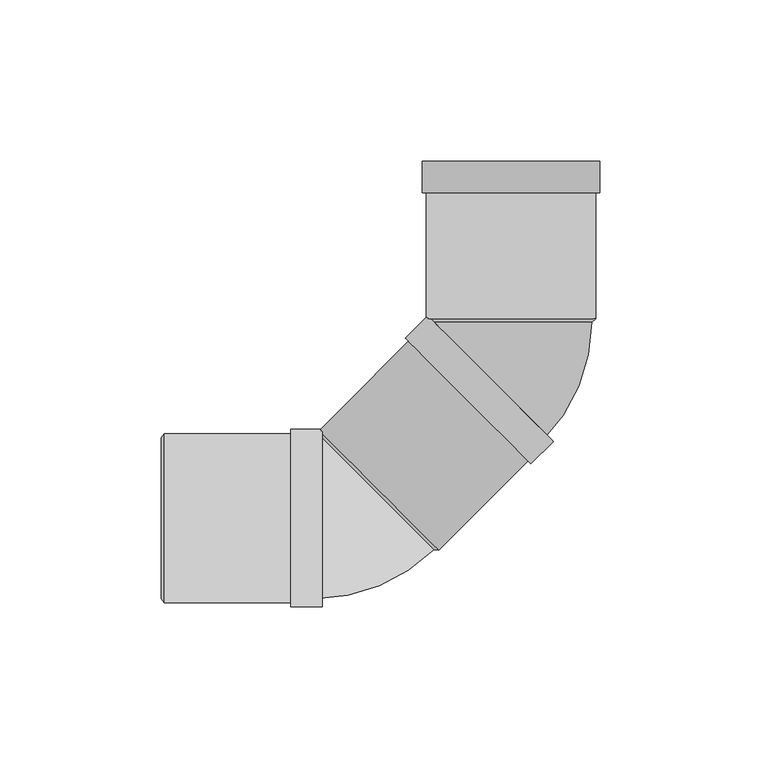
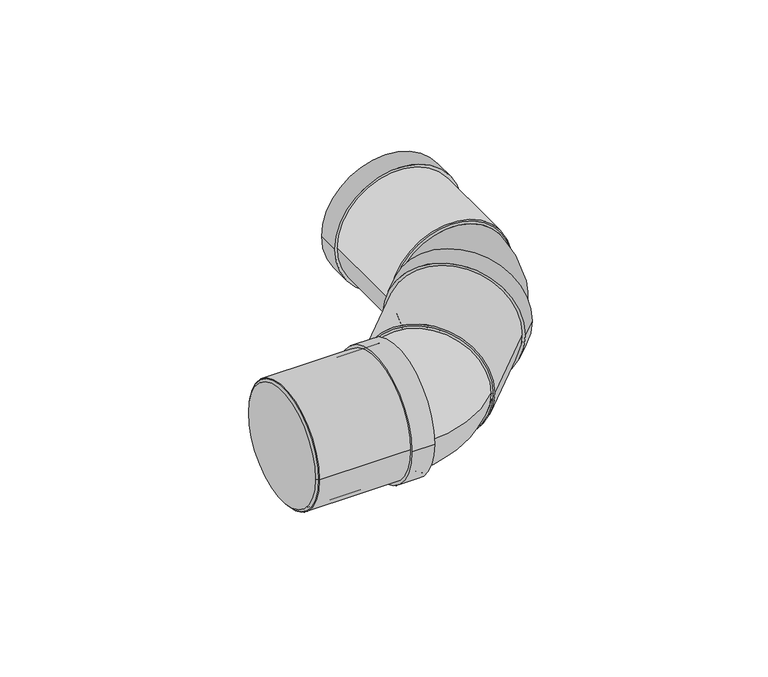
"""IFC4 building model written with IfcOpenShell, lengths in millimetres: pipe fitting geometry, Superdrain HT Bend Composite 2x45 : Superdrain HT Bend Composite 2x45."""

from ifc_helpers import new_model, si_unit, point, frame, origin, origin_2d, place, context, project, spatial, polyline, circle_curve, ellipse_curve, trimmed, segment, composite_curve, outline, extrude, source, transform, mapped, element, save
from ifc_brep_helpers import plane_surface, revolved_surface, advanced_brep


def pipe_fitting_bdf33838(model_context):
    return source(origin(), model_context, "Body", "SolidModel", [
        advanced_brep(
        [(25.0, 60.838896, 0.0), (-25.0, 60.838896, 0.0), (9.7580736, 24.0416306, 0.0), (-25.5972655, 59.3969696, 0.0)],
        [
            (0, 1, circle_curve(frame((0.0, 60.838896, 0.0), z_axis=(0.0, 1.0, 0.0), x_axis=(-1.0, 0.0, 0.0)), 25.0)),
            (1, 0, circle_curve(frame((0.0, 60.838896, 0.0), z_axis=(0.0, 1.0, 0.0), x_axis=(-1.0, 0.0, 0.0)), 25.0)),
            (2, 3, circle_curve(frame((-7.9195959, 41.7193001, 0.0), z_axis=(-0.7071067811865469, -0.707106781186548, 0.0), x_axis=(-0.707106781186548, 0.7071067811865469, 0.0)), 25.0)),
            (3, 2, circle_curve(frame((-7.9195959, 41.7193001, 0.0), z_axis=(-0.7071067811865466, -0.7071067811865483, 0.0), x_axis=(-0.7071067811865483, 0.7071067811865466, 0.0)), 25.0)),
            (3, 1, circle_curve(frame((-27.0391919, 60.838896, 0.0), z_axis=(0.0, 0.0, 1.0), x_axis=(0.7071067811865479, 0.707106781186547, 0.0)), 2.0391919)),
            (0, 2, circle_curve(frame((-27.0391919, 60.838896, 0.0), z_axis=(0.0, 0.0, -1.0), x_axis=(0.7071067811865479, 0.707106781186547, 0.0)), 52.0391919)),
        ],
        [
            plane_surface(frame((0.0, 60.838896, 0.0), z_axis=(0.0, 1.0, 0.0), x_axis=(0.0, 0.0, -1.0))),
            plane_surface(frame((-7.9195959, 41.7193001, 0.0), z_axis=(-0.7071067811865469, -0.7071067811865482, 0.0), x_axis=(0.0, 0.0, -1.0))),
            revolved_surface(trimmed(ellipse_curve(frame((-7.9195959, 79.958492, 0.0), z_axis=(0.7071067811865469, -0.707106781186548, 0.0), x_axis=(-0.707106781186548, -0.7071067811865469, 0.0)), 25.0, 25.0), [point((-25.5972655, 62.2808225, 0.0))], [point((9.7580736, 97.6361615, 0.0))], True, "CARTESIAN"), (-27.0391919, 60.838896, 0.0), (0.0, 0.0, 1.0)),
            revolved_surface(trimmed(ellipse_curve(frame((-7.9195959, 79.958492, 0.0), z_axis=(0.7071067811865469, -0.707106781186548, 0.0), x_axis=(-0.707106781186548, -0.7071067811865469, 0.0)), 25.0, 25.0), [point((9.7580736, 97.6361615, 0.0))], [point((-25.5972655, 62.2808225, 0.0))], True, "CARTESIAN"), (-27.0391919, 60.838896, 0.0), (0.0, 0.0, 1.0)),
        ],
        [
            (0, [[1, 2]]),
            (1, [[3, 4]]),
            (2, [[-4, 5, -1, 6]]),
            (3, [[-3, -6, -2, -5]]),
        ],
    ),
        extrude(outline(composite_curve([segment(trimmed(circle_curve(origin_2d(), 26.25), [point((0.0, 26.25))], [point((0.0, -26.25))], False, "CARTESIAN"), True, "CONTINUOUS"), segment(trimmed(circle_curve(origin_2d(), 26.25), [point((0.0, -26.25))], [point((0.0, 26.25))], False, "CARTESIAN"), True, "CONTINUOUS")], self_intersect=False), holes=[composite_curve([segment(trimmed(circle_curve(origin_2d(), 25.0), [point((0.0, 25.0))], [point((0.0, -25.0))], True, "CARTESIAN"), True, "CONTINUOUS"), segment(trimmed(circle_curve(origin_2d(), 25.0), [point((0.0, -25.0))], [point((0.0, 25.0))], True, "CARTESIAN"), True, "CONTINUOUS")], self_intersect=False)]), frame((0.0, 61.838896, 0.0), z_axis=(0.0, 1.0, 0.0), x_axis=(0.0, 0.0, 1.0)), (0.0, 0.0, 1.0), 49.0),
        extrude(outline(composite_curve([segment(trimmed(circle_curve(origin_2d(), 27.5625), [point((0.0, -27.5625))], [point((0.0, 27.5625))], False, "CARTESIAN"), True, "CONTINUOUS"), segment(trimmed(circle_curve(origin_2d(), 27.5625), [point((0.0, 27.5625))], [point((0.0, -27.5625))], False, "CARTESIAN"), True, "CONTINUOUS")], self_intersect=False), holes=[composite_curve([segment(trimmed(circle_curve(origin_2d(), 25.0), [point((0.0, -25.0))], [point((0.0, 25.0))], True, "CARTESIAN"), True, "CONTINUOUS"), segment(trimmed(circle_curve(origin_2d(), 25.0), [point((0.0, 25.0))], [point((0.0, -25.0))], True, "CARTESIAN"), True, "CONTINUOUS")], self_intersect=False)]), frame((0.0, 101.038896, 0.0), z_axis=(0.0, 1.0, 0.0), x_axis=(0.0, 0.0, 1.0)), (0.0, 0.0, 1.0), 9.8),
        advanced_brep(
        [(26.25, 61.838896, 0.0), (-26.25, 61.838896, 0.0), (25.0, 60.838896, 0.0), (-25.0, 60.838896, 0.0)],
        [
            (0, 1, circle_curve(frame((0.0, 61.838896, 0.0), z_axis=(0.0, 1.0, 0.0), x_axis=(0.9999999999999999, 0.0, 0.0)), 26.25)),
            (1, 0, circle_curve(frame((0.0, 61.838896, 0.0), z_axis=(0.0, 1.0, 0.0), x_axis=(-0.9999999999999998, 0.0, 0.0)), 26.25)),
            (2, 3, circle_curve(frame((0.0, 60.838896, 0.0), z_axis=(0.0, -1.0, 0.0), x_axis=(-0.9999999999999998, 0.0, 0.0)), 25.0)),
            (3, 2, circle_curve(frame((0.0, 60.838896, 0.0), z_axis=(0.0, -1.0, 0.0), x_axis=(0.9999999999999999, 0.0, 0.0)), 25.0)),
            (3, 1),
            (0, 2),
        ],
        [
            plane_surface(frame((0.0, 61.838896, 0.0), z_axis=(0.0, 1.0, 0.0), x_axis=(0.0, 0.0, -1.0))),
            plane_surface(frame((0.0, 60.838896, 0.0), z_axis=(0.0, -1.0, 0.0), x_axis=(0.0, 0.0, -1.0))),
            revolved_surface(polyline([(-25.0, 60.838896, 0.0), (-26.25, 61.838896, 0.0)]), (0.0, 40.838896, 0.0), (0.0, 0.9999999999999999, 0.0)),
            revolved_surface(polyline([(25.0, 60.838896, 0.0), (26.25, 61.838896, 0.0)]), (0.0, 40.838896, 0.0), (0.0, 0.9999999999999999, 0.0)),
        ],
        [
            (0, [[1, 2]]),
            (1, [[3, 4]]),
            (2, [[-4, 5, -1, 6]]),
            (3, [[-3, -6, -2, -5]]),
        ],
    ),
        extrude(outline(composite_curve([segment(trimmed(circle_curve(origin_2d(), 25.0), [point((0.0, -25.0))], [point((0.0, 25.0))], False, "CARTESIAN"), True, "CONTINUOUS"), segment(trimmed(circle_curve(origin_2d(), 25.0), [point((0.0, 25.0))], [point((0.0, -25.0))], False, "CARTESIAN"), True, "CONTINUOUS")], self_intersect=False)), frame((-41.0121933, 8.6267027, 0.0), z_axis=(0.707106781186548, 0.7071067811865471, 0.0), x_axis=(0.0, 0.0, -1.0)), (0.0, 0.0, 1.0), 46.8),
        extrude(outline(composite_curve([segment(trimmed(circle_curve(origin_2d(), 26.25), [point((26.25, 0.0))], [point((-26.25, 0.0))], False, "CARTESIAN"), True, "CONTINUOUS"), segment(trimmed(circle_curve(origin_2d(), 26.25), [point((-26.25, 0.0))], [point((26.25, 0.0))], False, "CARTESIAN"), True, "CONTINUOUS")], self_intersect=False), holes=[composite_curve([segment(trimmed(circle_curve(origin_2d(), 25.0), [point((25.0, 0.0))], [point((-25.0, 0.0))], True, "CARTESIAN"), True, "CONTINUOUS"), segment(trimmed(circle_curve(origin_2d(), 25.0), [point((-25.0, 0.0))], [point((25.0, 0.0))], True, "CARTESIAN"), True, "CONTINUOUS")], self_intersect=False)]), frame((-107.638896, 0.0, 0.0), z_axis=(1.0, 0.0, 0.0), x_axis=(0.0, 1.0, 0.0)), (0.0, 0.0, 1.0), 49.0),
        extrude(outline(composite_curve([segment(trimmed(circle_curve(origin_2d(), 27.5625), [point((27.5625, 0.0))], [point((-27.5625, 0.0))], False, "CARTESIAN"), True, "CONTINUOUS"), segment(trimmed(circle_curve(origin_2d(), 27.5625), [point((-27.5625, 0.0))], [point((27.5625, 0.0))], False, "CARTESIAN"), True, "CONTINUOUS")], self_intersect=False), holes=[composite_curve([segment(trimmed(circle_curve(origin_2d(), 25.0), [point((25.0, 0.0))], [point((-25.0, 0.0))], True, "CARTESIAN"), True, "CONTINUOUS"), segment(trimmed(circle_curve(origin_2d(), 25.0), [point((-25.0, 0.0))], [point((25.0, 0.0))], True, "CARTESIAN"), True, "CONTINUOUS")], self_intersect=False)]), frame((-68.438896, 0.0, 0.0), z_axis=(1.0, 0.0, 0.0), x_axis=(0.0, 1.0, 0.0)), (0.0, 0.0, 1.0), 9.8),
        advanced_brep(
        [(-108.638896, 25.0, 0.0), (-108.638896, -25.0, 0.0), (-107.638896, 26.25, 0.0), (-107.638896, -26.25, 0.0)],
        [
            (0, 1, circle_curve(frame((-108.638896, 0.0, 0.0), z_axis=(-1.0, 0.0, 0.0), x_axis=(0.0, 1.0000000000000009, 0.0)), 25.0)),
            (1, 0, circle_curve(frame((-108.638896, 0.0, 0.0), z_axis=(-1.0, 0.0, 0.0), x_axis=(0.0, -1.0000000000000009, 0.0)), 25.0)),
            (2, 3, circle_curve(frame((-107.638896, 0.0, 0.0), z_axis=(1.0, 0.0, 0.0), x_axis=(0.0, -1.0000000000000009, 0.0)), 26.25)),
            (3, 2, circle_curve(frame((-107.638896, 0.0, 0.0), z_axis=(1.0, 0.0, 0.0), x_axis=(0.0, 1.0000000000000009, 0.0)), 26.25)),
            (3, 1),
            (0, 2),
        ],
        [
            plane_surface(frame((-108.638896, 0.0, 0.0), z_axis=(-1.0, 0.0, 0.0), x_axis=(0.0, 0.0, -1.0))),
            plane_surface(frame((-107.638896, 0.0, 0.0), z_axis=(1.0, 0.0, 0.0), x_axis=(0.0, 0.0, -1.0))),
            revolved_surface(polyline([(-108.638896, 24.999999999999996, 0.0), (-107.638896, 26.25, 0.0)]), (-128.638896, 0.0, 0.0), (1.0000000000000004, 0.0, 0.0)),
            revolved_surface(polyline([(-108.638896, -24.999999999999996, 0.0), (-107.638896, -26.25, 0.0)]), (-128.638896, 0.0, 0.0), (1.0000000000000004, 0.0, 0.0)),
        ],
        [
            (0, [[1, 2]]),
            (1, [[3, 4]]),
            (2, [[-4, 5, -1, 6]]),
            (3, [[-3, -6, -2, -5]]),
        ],
    ),
        advanced_brep(
        [(-24.0416306, -9.7580736, 0.0), (-59.3969696, 25.5972655, 0.0), (-60.838896, -25.0, 0.0), (-60.838896, 25.0, 0.0)],
        [
            (0, 1, circle_curve(frame((-41.7193001, 7.9195959, 0.0), z_axis=(0.7071067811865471, 0.7071067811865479, 0.0), x_axis=(-0.7071067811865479, 0.7071067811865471, 0.0)), 25.0)),
            (1, 0, circle_curve(frame((-41.7193001, 7.9195959, 0.0), z_axis=(0.7071067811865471, 0.7071067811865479, 0.0), x_axis=(-0.7071067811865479, 0.7071067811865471, 0.0)), 25.0)),
            (2, 3, circle_curve(frame((-60.838896, 0.0, 0.0), z_axis=(-1.0, 0.0, 0.0), x_axis=(0.0, 1.0, 0.0)), 25.0)),
            (3, 2, circle_curve(frame((-60.838896, 0.0, 0.0), z_axis=(-1.0, 0.0, 0.0), x_axis=(0.0, 1.0, 0.0)), 25.0)),
            (3, 1, circle_curve(frame((-60.838896, 27.0391919, 0.0), z_axis=(0.0, 0.0, 1.0), x_axis=(1.0, 0.0, 0.0)), 2.0391919)),
            (0, 2, circle_curve(frame((-60.838896, 27.0391919, 0.0), z_axis=(0.0, 0.0, -1.0), x_axis=(1.0, 0.0, 0.0)), 52.0391919)),
        ],
        [
            plane_surface(frame((-41.7193001, 7.9195959, 0.0), z_axis=(0.707106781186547, 0.707106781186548, 0.0), x_axis=(0.0, 0.0, -1.0))),
            plane_surface(frame((-60.838896, 0.0, 0.0), z_axis=(-1.0, 0.0, 0.0), x_axis=(0.0, 0.0, -1.0))),
            revolved_surface(trimmed(ellipse_curve(frame((-33.7997041, 27.0391919, 0.0), z_axis=(0.0, -1.0, 0.0), x_axis=(-1.0, 0.0, 0.0)), 25.0, 25.0), [point((-58.7997041, 27.0391919, 0.0))], [point((-8.7997041, 27.0391919, 0.0))], True, "CARTESIAN"), (-60.838896, 27.0391919, 0.0), (0.0, 0.0, 1.0)),
            revolved_surface(trimmed(ellipse_curve(frame((-33.7997041, 27.0391919, 0.0), z_axis=(0.0, -1.0, 0.0), x_axis=(-1.0, 0.0, 0.0)), 25.0, 25.0), [point((-8.7997041, 27.0391919, 0.0))], [point((-58.7997041, 27.0391919, 0.0))], True, "CARTESIAN"), (-60.838896, 27.0391919, 0.0), (0.0, 0.0, 1.0)),
        ],
        [
            (0, [[1, 2]]),
            (1, [[3, 4]]),
            (2, [[-4, 5, -1, 6]]),
            (3, [[-3, -6, -2, -5]]),
        ],
    ),
        extrude(outline(composite_curve([segment(trimmed(circle_curve(origin_2d(), 26.25), [point((0.0, 26.25))], [point((0.0, -26.25))], False, "CARTESIAN"), True, "CONTINUOUS"), segment(trimmed(circle_curve(origin_2d(), 26.25), [point((0.0, -26.25))], [point((0.0, 26.25))], False, "CARTESIAN"), True, "CONTINUOUS")], self_intersect=False), holes=[composite_curve([segment(trimmed(circle_curve(origin_2d(), 25.0), [point((0.0, 25.0))], [point((0.0, -25.0))], True, "CARTESIAN"), True, "CONTINUOUS"), segment(trimmed(circle_curve(origin_2d(), 25.0), [point((0.0, -25.0))], [point((0.0, 25.0))], True, "CARTESIAN"), True, "CONTINUOUS")], self_intersect=False)]), frame((-41.0121933, 8.6267027, 0.0), z_axis=(0.707106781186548, 0.707106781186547, 0.0), x_axis=(0.0, 0.0, 1.0)), (0.0, 0.0, 1.0), 49.0),
        extrude(outline(composite_curve([segment(trimmed(circle_curve(origin_2d(), 27.5625), [point((0.0, -27.5624999))], [point((0.0, 27.5625001))], False, "CARTESIAN"), True, "CONTINUOUS"), segment(trimmed(circle_curve(origin_2d(), 27.5625), [point((0.0, 27.5625001))], [point((0.0, -27.5624999))], False, "CARTESIAN"), True, "CONTINUOUS")], self_intersect=False), holes=[composite_curve([segment(trimmed(circle_curve(origin_2d(), 25.0), [point((0.0, -25.0))], [point((0.0, 25.0))], True, "CARTESIAN"), True, "CONTINUOUS"), segment(trimmed(circle_curve(origin_2d(), 25.0), [point((0.0, 25.0))], [point((0.0, -25.0))], True, "CARTESIAN"), True, "CONTINUOUS")], self_intersect=False)]), frame((-13.2936075, 36.3452886, 0.0), z_axis=(0.7071067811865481, 0.7071067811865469, 0.0), x_axis=(0.0, 0.0, 1.0)), (0.0, 0.0, 1.0), 9.8),
        advanced_brep(
        [(-22.4506403, -9.9348503, 0.0), (-59.5737463, 27.1882557, 0.0), (-24.0416306, -9.7580736, 0.0), (-59.3969696, 25.5972655, 0.0)],
        [
            (0, 1, circle_curve(frame((-41.0121933, 8.6267027, 0.0), z_axis=(0.7071067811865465, 0.7071067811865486, 0.0), x_axis=(0.7071067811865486, -0.7071067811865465, 0.0)), 26.25)),
            (1, 0, circle_curve(frame((-41.0121933, 8.6267027, 0.0), z_axis=(0.7071067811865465, 0.7071067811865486, 0.0), x_axis=(-0.7071067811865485, 0.7071067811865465, 0.0)), 26.25)),
            (2, 3, circle_curve(frame((-41.7193001, 7.9195959, 0.0), z_axis=(-0.7071067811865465, -0.7071067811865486, 0.0), x_axis=(-0.7071067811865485, 0.7071067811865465, 0.0)), 25.0)),
            (3, 2, circle_curve(frame((-41.7193001, 7.9195959, 0.0), z_axis=(-0.7071067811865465, -0.7071067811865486, 0.0), x_axis=(0.7071067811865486, -0.7071067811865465, 0.0)), 25.0)),
            (3, 1),
            (0, 2),
        ],
        [
            plane_surface(frame((-41.0121933, 8.6267027, 0.0), z_axis=(0.707106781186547, 0.707106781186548, 0.0), x_axis=(0.0, 0.0, -1.0))),
            plane_surface(frame((-41.7193001, 7.9195959, 0.0), z_axis=(-0.707106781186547, -0.707106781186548, 0.0), x_axis=(0.0, 0.0, -1.0))),
            revolved_surface(polyline([(-59.39696959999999, 25.597265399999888, 0.0), (-59.5737463, 27.1882557, 0.0)]), (-55.8614357, -6.2225397, 0.0), (0.7071067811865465, 0.7071067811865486, 0.0)),
            revolved_surface(polyline([(-24.041630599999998, -9.758073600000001, 0.0), (-22.450640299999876, -9.934850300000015, 0.0)]), (-55.8614357, -6.2225397, 0.0), (0.7071067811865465, 0.7071067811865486, 0.0)),
        ],
        [
            (0, [[1, 2]]),
            (1, [[3, 4]]),
            (2, [[-4, 5, -1, 6]]),
            (3, [[-3, -6, -2, -5]]),
        ],
    ),
        extrude(outline(composite_curve([segment(trimmed(circle_curve(origin_2d(), 25.0), [point((-25.0, 0.0))], [point((25.0, 0.0))], False, "CARTESIAN"), True, "CONTINUOUS"), segment(trimmed(circle_curve(origin_2d(), 25.0), [point((25.0, 0.0))], [point((-25.0, 0.0))], False, "CARTESIAN"), True, "CONTINUOUS")], self_intersect=False)), frame((-107.638896, 0.0, 0.0), z_axis=(1.0, 0.0, 0.0), x_axis=(0.0, 1.0, 0.0)), (0.0, 0.0, 1.0), 46.8),
    ])


if __name__ == "__main__":
    model = new_model("IFC4")
    model_context = context("Model", 3, world=origin())
    ifc_project = project(units=[si_unit("LENGTHUNIT", "METRE", prefix="MILLI")], contexts=[model_context])
    site = spatial("IfcSite", under=ifc_project)
    building = spatial("IfcBuilding", under=site)
    placement = place(None, origin())
    pipe_fitting_shape = pipe_fitting_bdf33838(model_context)
    element("IfcPipeFitting", 1, ObjectType="Superdrain HT Bend Composite 2x45 : Superdrain HT Bend Composite 2x45", at=placement, inside=building, context=model_context, shape_type="MappedRepresentation", body=[
        mapped(pipe_fitting_shape, transform((0.0, 0.0, 0.0), x_axis=(1.0, 0.0, 0.0), y_axis=(0.0, 1.0, 0.0), z_axis=(0.0, 0.0, 1.0))),
    ])
    save(model, "model.ifc")
